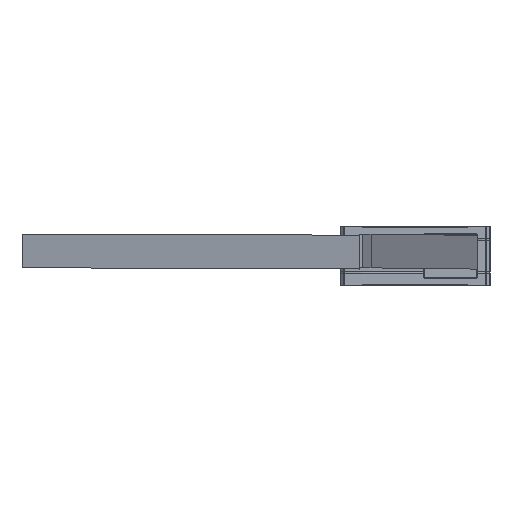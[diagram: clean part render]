
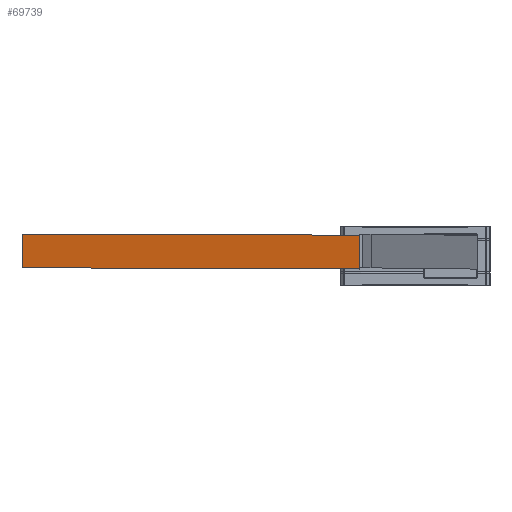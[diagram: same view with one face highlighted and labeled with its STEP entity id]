
A CAD part, top view. The second image highlights one B-rep face of the part: STEP entity #69739.
In plain terms, the highlighted planar face has unit normal (0.877, 0, 0.48).
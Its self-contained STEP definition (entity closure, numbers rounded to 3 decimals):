
#1363 = CARTESIAN_POINT ( 'NONE',  ( -29.5, -7., 70. ) ) ;
#8229 = CARTESIAN_POINT ( 'NONE',  ( -209.9, -7., 400. ) ) ;
#11786 = EDGE_CURVE ( 'NONE', #63125, #51787, #25638, .T. ) ;
#12123 = ORIENTED_EDGE ( 'NONE', *, *, #65782, .T. ) ;
#12896 = DIRECTION ( 'NONE',  ( 0.48, 0., -0.877 ) ) ;
#14608 = DIRECTION ( 'NONE',  ( 0.48, 0., -0.877 ) ) ;
#15896 = DIRECTION ( 'NONE',  ( 0.48, 0., -0.877 ) ) ;
#22250 = VERTEX_POINT ( 'NONE', #8229 ) ;
#24557 = CARTESIAN_POINT ( 'NONE',  ( -209.9, 11., 400. ) ) ;
#24874 = ORIENTED_EDGE ( 'NONE', *, *, #30386, .T. ) ;
#25324 = CARTESIAN_POINT ( 'NONE',  ( -209.9, -7., 400. ) ) ;
#25638 = LINE ( 'NONE', #86473, #36960 ) ;
#25963 = ORIENTED_EDGE ( 'NONE', *, *, #42822, .F. ) ;
#27330 = FACE_OUTER_BOUND ( 'NONE', #52875, .T. ) ;
#30386 = EDGE_CURVE ( 'NONE', #22250, #51990, #81559, .T. ) ;
#36960 = VECTOR ( 'NONE', #12896, 1000. ) ;
#37409 = CARTESIAN_POINT ( 'NONE',  ( -29.5, -7., 70. ) ) ;
#37534 = ORIENTED_EDGE ( 'NONE', *, *, #11786, .F. ) ;
#37953 = VECTOR ( 'NONE', #14608, 1000. ) ;
#38906 = VECTOR ( 'NONE', #80391, 1000. ) ;
#42737 = DIRECTION ( 'NONE',  ( 0.877, 0., 0.48 ) ) ;
#42822 = EDGE_CURVE ( 'NONE', #22250, #63125, #60098, .T. ) ;
#44213 = VECTOR ( 'NONE', #60485, 1000. ) ;
#51787 = VERTEX_POINT ( 'NONE', #84661 ) ;
#51990 = VERTEX_POINT ( 'NONE', #37409 ) ;
#52875 = EDGE_LOOP ( 'NONE', ( #37534, #25963, #24874, #12123 ) ) ;
#60098 = LINE ( 'NONE', #25324, #38906 ) ;
#60485 = DIRECTION ( 'NONE',  ( 0., 1., 0. ) ) ;
#63125 = VERTEX_POINT ( 'NONE', #24557 ) ;
#65363 = PLANE ( 'NONE',  #75683 ) ;
#65366 = LINE ( 'NONE', #72386, #44213 ) ;
#65782 = EDGE_CURVE ( 'NONE', #51990, #51787, #65366, .T. ) ;
#69739 = ADVANCED_FACE ( 'NONE', ( #27330 ), #65363, .T. ) ;
#72386 = CARTESIAN_POINT ( 'NONE',  ( -29.5, -7., 70. ) ) ;
#74448 = CARTESIAN_POINT ( 'NONE',  ( -29.5, -7., 70. ) ) ;
#75683 = AXIS2_PLACEMENT_3D ( 'NONE', #74448, #42737, #15896 ) ;
#80391 = DIRECTION ( 'NONE',  ( 0., 1., 0. ) ) ;
#81559 = LINE ( 'NONE', #1363, #37953 ) ;
#84661 = CARTESIAN_POINT ( 'NONE',  ( -29.5, 11., 70. ) ) ;
#86473 = CARTESIAN_POINT ( 'NONE',  ( -29.5, 11., 70. ) ) ;
